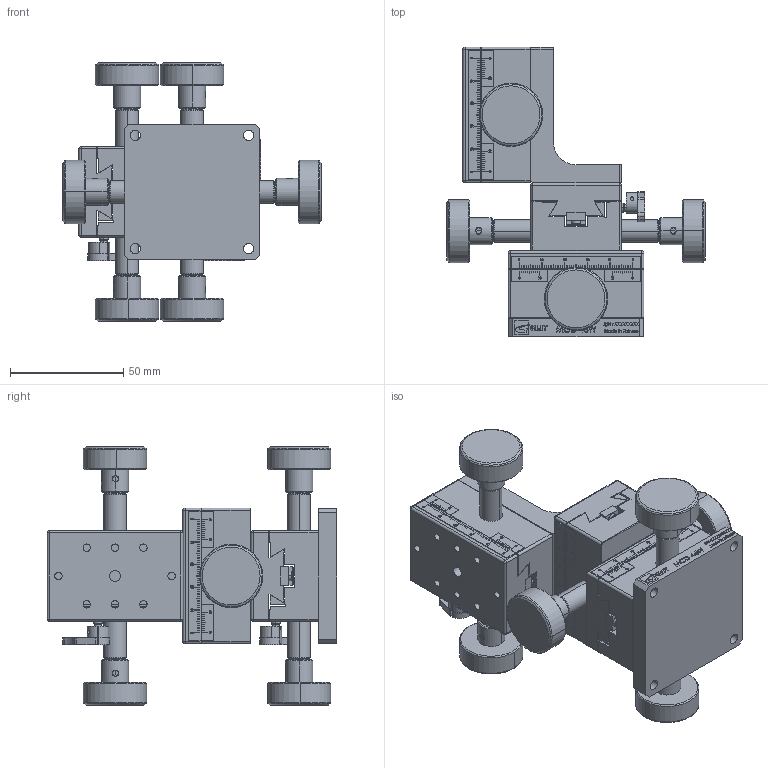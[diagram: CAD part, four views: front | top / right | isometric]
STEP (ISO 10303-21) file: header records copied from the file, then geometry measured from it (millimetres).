
FILE_DESCRIPTION (( 'STEP AP203' ), '1' );
FILE_NAME ('MCT-46WL-(«¬¿ý).STEP', '2013-10-05T05:43:28', ( '' ), ( '' ), 'SwSTEP 2.0', 'SolidWorks 2013', '' );
FILE_SCHEMA (( 'CONFIG_CONTROL_DESIGN' ));
Length unit declared in the file: millimetre
Products named in the file (7): Group6^MCT-46WL-(型錄); MCT-46WL-(型錄); Group4^MCT-46WL-(型錄); Group2^MCT-46WL-(型錄); Group1^MCT-46WL-(型錄); Group5^MCT-46WL-(型錄); Group3^MCT-46WL-(型錄)
Assembly tree (6 placements, depth 2):
  MCT-46WL-(型錄)
    Group4^MCT-46WL-(型錄)
    Group2^MCT-46WL-(型錄)
    Group1^MCT-46WL-(型錄)
    Group5^MCT-46WL-(型錄)
    Group3^MCT-46WL-(型錄)
    Group6^MCT-46WL-(型錄)
Bounding box: 114 x 128 x 114 mm (x, y, z)
Volume: 324069.3 mm3; surface area: 90408.2 mm2
Topology: 6 solids, 6 shells, 3307 faces, 8844 edges, 5743 vertices
Faces by surface type: plane 2203, bspline 523, cylinder 331, cone 196, torus 30, sphere 24
Entity records: 136942 total; most frequent: CARTESIAN_POINT 56987, ORIENTED_EDGE 17640, DIRECTION 14215, EDGE_CURVE 8820, LINE 6485, VECTOR 6485, VERTEX_POINT 5743, AXIS2_PLACEMENT_3D 3865
